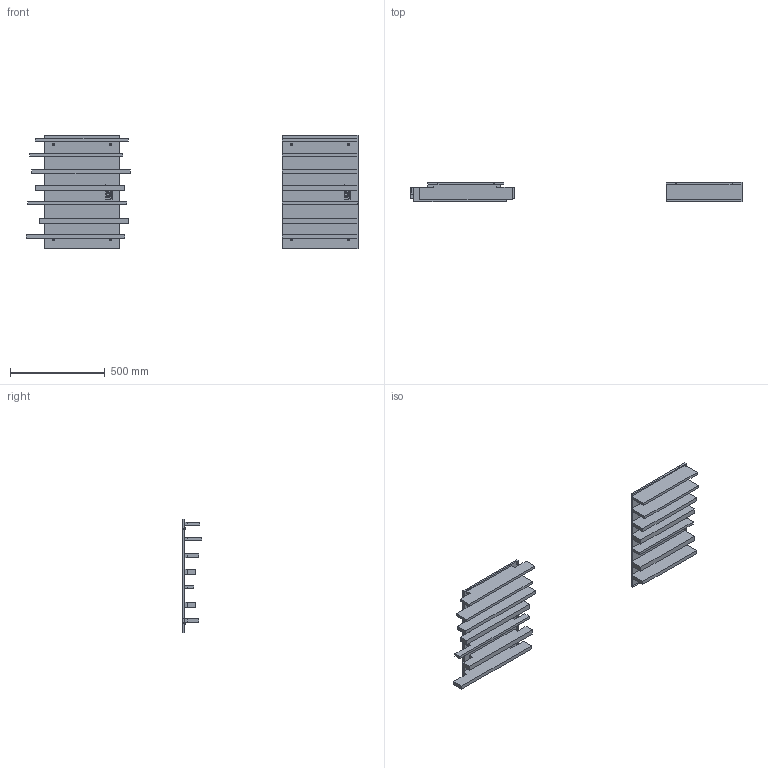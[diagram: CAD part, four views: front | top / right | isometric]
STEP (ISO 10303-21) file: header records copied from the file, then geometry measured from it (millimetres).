
FILE_DESCRIPTION(/* description */ (''),/* implementation_level */ '2;1');
FILE_NAME(/* name */ 'MOSSwall_NEMUS 08 - 09 _ Strips ',/* time_stamp */ '2023-07-19T17:49:42+02:00',/* author */ (''),/* organization */ (''),/* preprocessor_version */ 'ST-DEVELOPER v16.5',/* originating_system */ 'Rhino 7.20',/* authorisation */ '');
FILE_SCHEMA (('CONFIG_CONTROL_DESIGN'));
Length unit declared in the file: millimetre
Products named in the file (1): Document
Bounding box: 1749.33 x 100.55 x 600 mm (x, y, z)
Volume: 8997863 mm3; surface area: 1758666.8 mm2
Topology: 22 solids, 24 shells, 630 faces, 1662 edges, 1108 vertices
Faces by surface type: plane 372, bspline 242, cylinder 16
Full cylindrical faces by diameter (mm): 5.5 x8, 7.6 x8
Entity records: 26614 total; most frequent: CARTESIAN_POINT 15607, ORIENTED_EDGE 3244, EDGE_CURVE 1662, B_SPLINE_CURVE_WITH_KNOTS 1502, VERTEX_POINT 1108, EDGE_LOOP 684, ADVANCED_FACE 630, FACE_OUTER_BOUND 630
